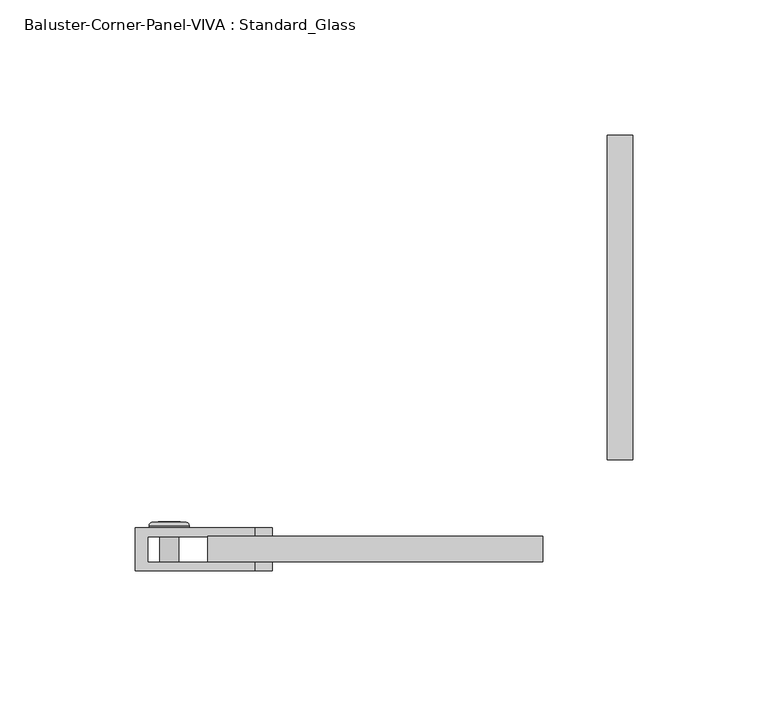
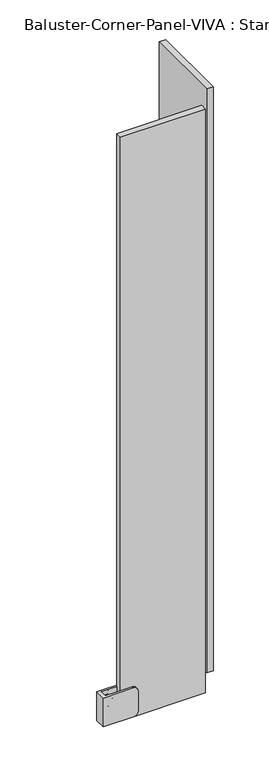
"""IFC4 building model written with IfcOpenShell, lengths in millimetres: railing geometry, Baluster-Corner-Panel-VIVA : Standard_Glass."""

from ifc_helpers import new_model, si_unit, point, frame, origin, place, context, project, spatial, polyline, circle_curve, ellipse_curve, trimmed, outline, extrude, source, transform, mapped, element, save
from ifc_brep_helpers import plane_surface, cylinder_surface, revolved_surface, advanced_brep


def baluster_corner_panel_viva_standard_glass_1654cc0c(model_context):
    return source(origin(), model_context, "Body", "SolidModel", [
        advanced_brep(
        [(-138.5095213, -36.7665, 138.7358896), (-138.5095213, -24.0665, 138.7358896), (-131.4186295, -24.0665, 138.7358896), (-131.4186295, -36.7665, 138.7358896), (-142.3718645, -24.0665, 138.7358896), (-127.5562863, -24.0665, 138.7358896), (-136.6201508, -23.199388, 138.7358896), (-136.6201508, -36.7665, 138.7358896), (-133.308, -36.7665, 138.7358896), (-133.308, -23.199388, 138.7358896), (-142.3718645, -23.2316551, 138.7358896), (-141.0905924, -21.9503831, 138.7358896), (-128.8375583, -21.9503831, 138.7358896), (-127.5562863, -23.2316551, 138.7358896), (-139.2626709, -21.9503831, 138.7358896), (-130.6654798, -21.9503831, 138.7358896), (-139.2626709, -23.199388, 138.7358896), (-130.6654798, -23.199388, 138.7358896)],
        [
            (0, 1),
            (1, 2, circle_curve(frame((-134.9640754, -24.0665, 138.7358896), z_axis=(0.0, -1.0, 0.0), x_axis=(1.0, 0.0, 0.0)), 3.5454459)),
            (2, 3),
            (3, 0, circle_curve(frame((-134.9640754, -36.7665, 138.7358896), z_axis=(0.0, 1.0, 0.0), x_axis=(1.0, 0.0, 0.0)), 3.5454459)),
            (2, 1, circle_curve(frame((-134.9640754, -24.0665, 138.7358896), z_axis=(0.0, -1.0, 0.0), x_axis=(1.0, 0.0, 0.0)), 3.5454459)),
            (0, 3, circle_curve(frame((-134.9640754, -36.7665, 138.7358896), z_axis=(0.0, 1.0, 0.0), x_axis=(1.0, 0.0, 0.0)), 3.5454459)),
            (1, 4),
            (4, 5, circle_curve(frame((-134.9640754, -24.0665, 138.7358896), z_axis=(0.0, -1.0, 0.0), x_axis=(1.0, 0.0, 0.0)), 7.4077891)),
            (5, 2),
            (5, 4, circle_curve(frame((-134.9640754, -24.0665, 138.7358896), z_axis=(0.0, -1.0, 0.0), x_axis=(1.0, 0.0, 0.0)), 7.4077891)),
            (6, 7),
            (7, 8, circle_curve(frame((-134.9640754, -36.7665, 138.7358896), z_axis=(0.0, -1.0, 0.0), x_axis=(1.0, 0.0, 0.0)), 1.6560754)),
            (8, 9),
            (9, 6, circle_curve(frame((-134.9640754, -23.199388, 138.7358896), z_axis=(0.0, 1.0, 0.0), x_axis=(1.0, 0.0, 0.0)), 1.6560754)),
            (8, 7, circle_curve(frame((-134.9640754, -36.7665, 138.7358896), z_axis=(0.0, -1.0, 0.0), x_axis=(1.0, 0.0, 0.0)), 1.6560754)),
            (6, 9, circle_curve(frame((-134.9640754, -23.199388, 138.7358896), z_axis=(0.0, 1.0, 0.0), x_axis=(1.0, 0.0, 0.0)), 1.6560754)),
            (10, 11, circle_curve(frame((-141.0905924, -23.2316551, 138.7358896), z_axis=(0.0, 0.0, -1.0), x_axis=(-1.0, 0.0, 0.0)), 1.281272)),
            (11, 12, circle_curve(frame((-134.9640754, -21.9503831, 138.7358896), z_axis=(0.0, -1.0, 0.0), x_axis=(1.0, 0.0, 0.0)), 6.1265171)),
            (12, 13, circle_curve(frame((-128.8375583, -23.2316551, 138.7358896), z_axis=(0.0, 0.0, -1.0), x_axis=(1.0, 0.0, 0.0)), 1.281272)),
            (13, 10, circle_curve(frame((-134.9640754, -23.2316551, 138.7358896), z_axis=(0.0, 1.0, 0.0), x_axis=(1.0, 0.0, 0.0)), 7.4077891)),
            (12, 11, circle_curve(frame((-134.9640754, -21.9503831, 138.7358896), z_axis=(0.0, -1.0, 0.0), x_axis=(1.0, 0.0, 0.0)), 6.1265171)),
            (10, 13, circle_curve(frame((-134.9640754, -23.2316551, 138.7358896), z_axis=(0.0, 1.0, 0.0), x_axis=(1.0, 0.0, 0.0)), 7.4077891)),
            (11, 14),
            (14, 15, circle_curve(frame((-134.9640754, -21.9503831, 138.7358896), z_axis=(0.0, -1.0, 0.0), x_axis=(1.0, 0.0, 0.0)), 4.2985955)),
            (15, 12),
            (15, 14, circle_curve(frame((-134.9640754, -21.9503831, 138.7358896), z_axis=(0.0, -1.0, 0.0), x_axis=(1.0, 0.0, 0.0)), 4.2985955)),
            (4, 10),
            (13, 5),
            (7, 0),
            (3, 8),
            (14, 16),
            (16, 17, circle_curve(frame((-134.9640754, -23.199388, 138.7358896), z_axis=(0.0, -1.0, 0.0), x_axis=(1.0, 0.0, 0.0)), 4.2985955)),
            (17, 15),
            (17, 16, circle_curve(frame((-134.9640754, -23.199388, 138.7358896), z_axis=(0.0, -1.0, 0.0), x_axis=(1.0, 0.0, 0.0)), 4.2985955)),
            (16, 6),
            (9, 17),
        ],
        [
            cylinder_surface(frame((-134.9640754, -27.5632331, 138.7358896), z_axis=(0.0, -1.0, 0.0), x_axis=(1.0, 0.0, 0.0)), 3.5454459),
            plane_surface(frame((-134.9640754, -24.0665, 138.7358896), z_axis=(0.0, -1.0, 0.0), x_axis=(1.0, 0.0, 0.0))),
            revolved_surface(polyline([(-133.30800000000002, -36.7665, 138.7358896), (-133.30800000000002, -23.199388, 138.7358896)]), (-134.9640754, -27.5632331, 138.7358896), (0.0, -1.0, 0.0)),
            revolved_surface(trimmed(ellipse_curve(frame((-128.8375583, -23.2316551, 138.7358896), z_axis=(0.0, 0.0, -1.0), x_axis=(1.0, 0.0, 0.0)), 1.281272, 1.281272), [point((-128.8375583, -21.9503831, 138.7358896))], [point((-127.5562863, -23.2316551, 138.7358896))], True, "CARTESIAN"), (-134.9640754, -27.5632331, 138.7358896), (0.0, -1.0, 0.0)),
            plane_surface(frame((-134.9640754, -21.9503831, 138.7358896), z_axis=(0.0, 1.0, 0.0), x_axis=(1.0, 0.0, 0.0))),
            cylinder_surface(frame((-134.9640754, -27.5632331, 138.7358896), z_axis=(0.0, -1.0, 0.0), x_axis=(1.0, 0.0, 0.0)), 7.4077891),
            plane_surface(frame((-134.9640754, -36.7665, 138.7358896), z_axis=(0.0, -1.0, 0.0), x_axis=(1.0, 0.0, 0.0))),
            revolved_surface(polyline([(-130.6654799, -23.199388, 138.7358896), (-130.6654799, -21.9503831, 138.7358896)]), (-134.9640754, -27.5632331, 138.7358896), (0.0, -1.0, 0.0)),
            plane_surface(frame((-134.9640754, -23.199388, 138.7358896), z_axis=(0.0, 1.0, 0.0), x_axis=(1.0, 0.0, 0.0))),
        ],
        [
            (0, [[1, 2, 3, 4]]),
            (0, [[-3, 5, -1, 6]]),
            (1, [[7, 8, 9, -2]]),
            (1, [[-9, 10, -7, -5]]),
            (2, [[11, 12, 13, 14]]),
            (2, [[-13, 15, -11, 16]]),
            (3, [[17, 18, 19, 20]]),
            (3, [[-19, 21, -17, 22]]),
            (4, [[23, 24, 25, -18]]),
            (4, [[-25, 26, -23, -21]]),
            (5, [[27, -20, 28, -8]]),
            (5, [[-28, -22, -27, -10]]),
            (6, [[29, -4, 30, -12]]),
            (6, [[-30, -6, -29, -15]]),
            (7, [[31, 32, 33, -24]]),
            (7, [[-33, 34, -31, -26]]),
            (8, [[35, -14, 36, -32]]),
            (8, [[-36, -16, -35, -34]]),
        ],
    ),
        advanced_brep(
        [(-138.5095213, -36.7665, 114.1296396), (-138.5095213, -24.0665, 114.1296396), (-131.4186295, -24.0665, 114.1296396), (-131.4186295, -36.7665, 114.1296396), (-142.3718645, -24.0665, 114.1296396), (-127.5562863, -24.0665, 114.1296396), (-136.6201508, -23.199388, 114.1296396), (-136.6201508, -36.7665, 114.1296396), (-133.308, -36.7665, 114.1296396), (-133.308, -23.199388, 114.1296396), (-142.3718645, -23.2316551, 114.1296396), (-141.0905924, -21.9503831, 114.1296396), (-128.8375583, -21.9503831, 114.1296396), (-127.5562863, -23.2316551, 114.1296396), (-139.2626709, -21.9503831, 114.1296396), (-130.6654798, -21.9503831, 114.1296396), (-139.2626709, -23.199388, 114.1296396), (-130.6654798, -23.199388, 114.1296396)],
        [
            (0, 1),
            (1, 2, circle_curve(frame((-134.9640754, -24.0665, 114.1296396), z_axis=(0.0, -1.0, 0.0), x_axis=(1.0, 0.0, 0.0)), 3.5454459)),
            (2, 3),
            (3, 0, circle_curve(frame((-134.9640754, -36.7665, 114.1296396), z_axis=(0.0, 1.0, 0.0), x_axis=(1.0, 0.0, 0.0)), 3.5454459)),
            (2, 1, circle_curve(frame((-134.9640754, -24.0665, 114.1296396), z_axis=(0.0, -1.0, 0.0), x_axis=(1.0, 0.0, 0.0)), 3.5454459)),
            (0, 3, circle_curve(frame((-134.9640754, -36.7665, 114.1296396), z_axis=(0.0, 1.0, 0.0), x_axis=(1.0, 0.0, 0.0)), 3.5454459)),
            (1, 4),
            (4, 5, circle_curve(frame((-134.9640754, -24.0665, 114.1296396), z_axis=(0.0, -1.0, 0.0), x_axis=(1.0, 0.0, 0.0)), 7.4077891)),
            (5, 2),
            (5, 4, circle_curve(frame((-134.9640754, -24.0665, 114.1296396), z_axis=(0.0, -1.0, 0.0), x_axis=(1.0, 0.0, 0.0)), 7.4077891)),
            (6, 7),
            (7, 8, circle_curve(frame((-134.9640754, -36.7665, 114.1296396), z_axis=(0.0, -1.0, 0.0), x_axis=(1.0, 0.0, 0.0)), 1.6560754)),
            (8, 9),
            (9, 6, circle_curve(frame((-134.9640754, -23.199388, 114.1296396), z_axis=(0.0, 1.0, 0.0), x_axis=(1.0, 0.0, 0.0)), 1.6560754)),
            (8, 7, circle_curve(frame((-134.9640754, -36.7665, 114.1296396), z_axis=(0.0, -1.0, 0.0), x_axis=(1.0, 0.0, 0.0)), 1.6560754)),
            (6, 9, circle_curve(frame((-134.9640754, -23.199388, 114.1296396), z_axis=(0.0, 1.0, 0.0), x_axis=(1.0, 0.0, 0.0)), 1.6560754)),
            (10, 11, circle_curve(frame((-141.0905924, -23.2316551, 114.1296396), z_axis=(0.0, 0.0, -1.0), x_axis=(-1.0, 0.0, 0.0)), 1.281272)),
            (11, 12, circle_curve(frame((-134.9640754, -21.9503831, 114.1296396), z_axis=(0.0, -1.0, 0.0), x_axis=(1.0, 0.0, 0.0)), 6.1265171)),
            (12, 13, circle_curve(frame((-128.8375583, -23.2316551, 114.1296396), z_axis=(0.0, 0.0, -1.0), x_axis=(1.0, 0.0, 0.0)), 1.281272)),
            (13, 10, circle_curve(frame((-134.9640754, -23.2316551, 114.1296396), z_axis=(0.0, 1.0, 0.0), x_axis=(1.0, 0.0, 0.0)), 7.4077891)),
            (12, 11, circle_curve(frame((-134.9640754, -21.9503831, 114.1296396), z_axis=(0.0, -1.0, 0.0), x_axis=(1.0, 0.0, 0.0)), 6.1265171)),
            (10, 13, circle_curve(frame((-134.9640754, -23.2316551, 114.1296396), z_axis=(0.0, 1.0, 0.0), x_axis=(1.0, 0.0, 0.0)), 7.4077891)),
            (11, 14),
            (14, 15, circle_curve(frame((-134.9640754, -21.9503831, 114.1296396), z_axis=(0.0, -1.0, 0.0), x_axis=(1.0, 0.0, 0.0)), 4.2985955)),
            (15, 12),
            (15, 14, circle_curve(frame((-134.9640754, -21.9503831, 114.1296396), z_axis=(0.0, -1.0, 0.0), x_axis=(1.0, 0.0, 0.0)), 4.2985955)),
            (7, 0),
            (3, 8),
            (4, 10),
            (13, 5),
            (14, 16),
            (16, 17, circle_curve(frame((-134.9640754, -23.199388, 114.1296396), z_axis=(0.0, -1.0, 0.0), x_axis=(1.0, 0.0, 0.0)), 4.2985955)),
            (17, 15),
            (17, 16, circle_curve(frame((-134.9640754, -23.199388, 114.1296396), z_axis=(0.0, -1.0, 0.0), x_axis=(1.0, 0.0, 0.0)), 4.2985955)),
            (16, 6),
            (9, 17),
        ],
        [
            cylinder_surface(frame((-134.9640754, -27.5632331, 114.1296396), z_axis=(0.0, -1.0, 0.0), x_axis=(1.0, 0.0, 0.0)), 3.5454459),
            plane_surface(frame((-134.9640754, -24.0665, 114.1296396), z_axis=(0.0, -1.0, 0.0), x_axis=(1.0, 0.0, 0.0))),
            revolved_surface(polyline([(-133.30800000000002, -36.7665, 114.1296396), (-133.30800000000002, -23.199388, 114.1296396)]), (-134.9640754, -27.5632331, 114.1296396), (0.0, -1.0, 0.0)),
            revolved_surface(trimmed(ellipse_curve(frame((-128.8375583, -23.2316551, 114.1296396), z_axis=(0.0, 0.0, -1.0), x_axis=(1.0, 0.0, 0.0)), 1.281272, 1.281272), [point((-128.8375583, -21.9503831, 114.1296396))], [point((-127.5562863, -23.2316551, 114.1296396))], True, "CARTESIAN"), (-134.9640754, -27.5632331, 114.1296396), (0.0, -1.0, 0.0)),
            plane_surface(frame((-134.9640754, -21.9503831, 114.1296396), z_axis=(0.0, 1.0, 0.0), x_axis=(1.0, 0.0, 0.0))),
            plane_surface(frame((-134.9640754, -36.7665, 114.1296396), z_axis=(0.0, -1.0, 0.0), x_axis=(1.0, 0.0, 0.0))),
            cylinder_surface(frame((-134.9640754, -27.5632331, 114.1296396), z_axis=(0.0, -1.0, 0.0), x_axis=(1.0, 0.0, 0.0)), 7.4077891),
            revolved_surface(polyline([(-130.6654799, -23.199388, 114.1296396), (-130.6654799, -21.9503831, 114.1296396)]), (-134.9640754, -27.5632331, 114.1296396), (0.0, -1.0, 0.0)),
            plane_surface(frame((-134.9640754, -23.199388, 114.1296396), z_axis=(0.0, 1.0, 0.0), x_axis=(1.0, 0.0, 0.0))),
        ],
        [
            (0, [[1, 2, 3, 4]]),
            (0, [[-3, 5, -1, 6]]),
            (1, [[7, 8, 9, -2]]),
            (1, [[-9, 10, -7, -5]]),
            (2, [[11, 12, 13, 14]]),
            (2, [[-13, 15, -11, 16]]),
            (3, [[17, 18, 19, 20]]),
            (3, [[-19, 21, -17, 22]]),
            (4, [[23, 24, 25, -18]]),
            (4, [[-25, 26, -23, -21]]),
            (5, [[27, -4, 28, -12]]),
            (5, [[-28, -6, -27, -15]]),
            (6, [[29, -20, 30, -8]]),
            (6, [[-30, -22, -29, -10]]),
            (7, [[31, 32, 33, -24]]),
            (7, [[-33, 34, -31, -26]]),
            (8, [[35, -14, 36, -32]]),
            (8, [[-36, -16, -35, -34]]),
        ],
    ),
        extrude(outline(polyline([(114.1296396, -139.0580037), (110.5841937, -137.0110395), (110.5841937, -132.9171112), (114.1296396, -130.8701471), (117.6750855, -132.9171112), (117.6750855, -137.0110395), (114.1296396, -139.0580037)])), frame((0.0, -23.199388, 0.0), z_axis=(0.0, 1.0, 0.0), x_axis=(0.0, 0.0, 1.0)), (0.0, 0.0, 1.0), 1.4969696),
        advanced_brep(
        [(-147.5974202, -24.0665, 148.6577646), (-103.1474202, -24.0665, 148.6577646), (-96.7974202, -24.0665, 142.3077646), (-96.7974202, -24.0665, 110.5577646), (-103.1474202, -24.0665, 104.2077646), (-147.5974202, -24.0665, 104.2077646), (-147.5974202, -39.9415, 148.6577646), (-147.5974202, -39.9415, 104.2077646), (-103.1474202, -39.9415, 104.2077646), (-96.7974202, -39.9415, 110.5577646), (-96.7974202, -39.9415, 142.3077646), (-103.1474202, -39.9415, 148.6577646), (-103.1474202, -27.2415, 104.2077646), (-142.8793398, -27.2415, 104.2077646), (-142.8793398, -36.7665, 104.2077646), (-103.1474202, -36.7665, 104.2077646), (-142.8793398, -27.2415, 148.6577646), (-142.8793398, -36.7665, 148.6577646), (-96.7974202, -27.2415, 110.5577646), (-96.7974202, -27.2415, 142.3077646), (-103.1474202, -27.2415, 148.6577646), (-103.1474202, -36.7665, 148.6577646), (-96.7974202, -36.7665, 142.3077646), (-96.7974202, -36.7665, 110.5577646)],
        [
            (0, 1),
            (1, 2, circle_curve(frame((-103.1474202, -24.0665, 142.3077646), z_axis=(0.0, 1.0, 0.0), x_axis=(1.0, 0.0, 0.0)), 6.35)),
            (2, 3),
            (3, 4, circle_curve(frame((-103.1474202, -24.0665, 110.5577646), z_axis=(0.0, 1.0, 0.0), x_axis=(1.0, 0.0, 0.0)), 6.35)),
            (4, 5),
            (5, 0),
            (6, 7),
            (7, 8),
            (8, 9, circle_curve(frame((-103.1474202, -39.9415, 110.5577646), z_axis=(0.0, -1.0, 0.0), x_axis=(1.0, 0.0, 0.0)), 6.35)),
            (9, 10),
            (10, 11, circle_curve(frame((-103.1474202, -39.9415, 142.3077646), z_axis=(0.0, -1.0, 0.0), x_axis=(1.0, 0.0, 0.0)), 6.35)),
            (11, 6),
            (5, 7),
            (6, 0),
            (4, 12),
            (12, 13),
            (13, 14),
            (14, 15),
            (15, 8),
            (13, 16),
            (16, 17),
            (17, 14),
            (12, 18, circle_curve(frame((-103.1474202, -27.2415, 110.5577646), z_axis=(0.0, -1.0, 0.0), x_axis=(1.0, 0.0, 0.0)), 6.35)),
            (18, 19),
            (19, 20, circle_curve(frame((-103.1474202, -27.2415, 142.3077646), z_axis=(0.0, -1.0, 0.0), x_axis=(1.0, 0.0, 0.0)), 6.35)),
            (20, 16),
            (17, 21),
            (21, 22, circle_curve(frame((-103.1474202, -36.7665, 142.3077646), z_axis=(0.0, 1.0, 0.0), x_axis=(1.0, 0.0, 0.0)), 6.35)),
            (22, 23),
            (23, 15, circle_curve(frame((-103.1474202, -36.7665, 110.5577646), z_axis=(0.0, 1.0, 0.0), x_axis=(1.0, 0.0, 0.0)), 6.35)),
            (23, 9),
            (3, 18),
            (22, 10),
            (2, 19),
            (21, 11),
            (1, 20),
        ],
        [
            plane_surface(frame((-147.5974202, -24.0665, 104.2077646), z_axis=(0.0, 1.0, 0.0), x_axis=(0.0, 0.0, -1.0))),
            plane_surface(frame((-147.5974202, -39.9415, 104.2077646), z_axis=(0.0, -1.0, 0.0), x_axis=(0.0, 0.0, 1.0))),
            plane_surface(frame((-147.5974202, -24.0665, 148.6577646), z_axis=(-1.0, 0.0, 0.0), x_axis=(0.0, -1.0, 0.0))),
            plane_surface(frame((-147.5974202, -24.0665, 104.2077646), z_axis=(0.0, 0.0, -1.0), x_axis=(0.0, -1.0, 0.0))),
            plane_surface(frame((-142.8793398, -36.7665, 161.3577646), z_axis=(1.0, 0.0, 0.0), x_axis=(0.0, 0.0, -1.0))),
            plane_surface(frame((-142.8793398, -27.2415, 161.3577646), z_axis=(0.0, -1.0, 0.0), x_axis=(0.0, 0.0, -1.0))),
            plane_surface(frame((-84.0974202, -36.7665, 161.3577646), z_axis=(0.0, 1.0, 0.0), x_axis=(0.0, 0.0, -1.0))),
            cylinder_surface(frame((-103.1474202, -39.9415, 110.5577646), z_axis=(0.0, 1.0, 0.0), x_axis=(1.0, 0.0, 0.0)), 6.35),
            plane_surface(frame((-96.7974202, -24.0665, 110.5577646), z_axis=(1.0, 0.0, 0.0), x_axis=(0.0, -1.0, 0.0))),
            cylinder_surface(frame((-103.1474202, -39.9415, 142.3077646), z_axis=(0.0, 1.0, 0.0), x_axis=(1.0, 0.0, 0.0)), 6.35),
            plane_surface(frame((-103.1474202, -24.0665, 148.6577646), z_axis=(0.0, 0.0, 1.0), x_axis=(0.0, -1.0, 0.0))),
        ],
        [
            (0, [[1, 2, 3, 4, 5, 6]]),
            (1, [[7, 8, 9, 10, 11, 12]]),
            (2, [[13, -7, 14, -6]]),
            (3, [[15, 16, 17, 18, 19, -8, -13, -5]]),
            (4, [[-17, 20, 21, 22]]),
            (5, [[-16, 23, 24, 25, 26, -20]]),
            (6, [[27, 28, 29, 30, -18, -22]]),
            (7, [[-19, -30, 31, -9]]),
            (7, [[32, -23, -15, -4]]),
            (8, [[-31, -29, 33, -10]]),
            (8, [[34, -24, -32, -3]]),
            (9, [[-33, -28, 35, -11]]),
            (9, [[36, -25, -34, -2]]),
            (10, [[-14, -12, -35, -27, -21, -26, -36, -1]]),
        ],
    ),
        extrude(outline(polyline([(36.7665, 1.0851207), (27.2415, 1.0851207), (27.2415, 121.2794425), (36.7665, 121.2794425), (36.7665, 1.0851207)])), frame((0.0, 0.0, 101.6), z_axis=(0.0, 0.0, 1.0), x_axis=(1.0, 0.0, 0.0)), (0.0, 0.0, 1.0), 901.7),
        extrude(outline(polyline([(-120.6543398, -36.7665), (-120.6543398, -27.2415), (3.429, -27.2415), (3.429, -36.7665), (-120.6543398, -36.7665)])), frame((0.0, 0.0, 101.6), z_axis=(0.0, 0.0, 1.0), x_axis=(1.0, 0.0, 0.0)), (0.0, 0.0, 1.0), 901.7),
    ])


if __name__ == "__main__":
    model = new_model("IFC4")
    model_context = context("Model", 3, world=origin())
    ifc_project = project(units=[si_unit("LENGTHUNIT", "METRE", prefix="MILLI")], contexts=[model_context])
    site = spatial("IfcSite", under=ifc_project)
    building = spatial("IfcBuilding", under=site)
    placement = place(None, origin())
    baluster_corner_panel_viva_standard_glass_shape = baluster_corner_panel_viva_standard_glass_1654cc0c(model_context)
    element("IfcRailing", 1, ObjectType="Baluster-Corner-Panel-VIVA : Standard_Glass", at=placement, inside=building, context=model_context, shape_type="MappedRepresentation", body=[
        mapped(baluster_corner_panel_viva_standard_glass_shape, transform((0.0, 0.0, 0.0), x_axis=(1.0, 0.0, 0.0), y_axis=(0.0, 1.0, 0.0), z_axis=(0.0, 0.0, 1.0))),
    ])
    save(model, "model.ifc")
